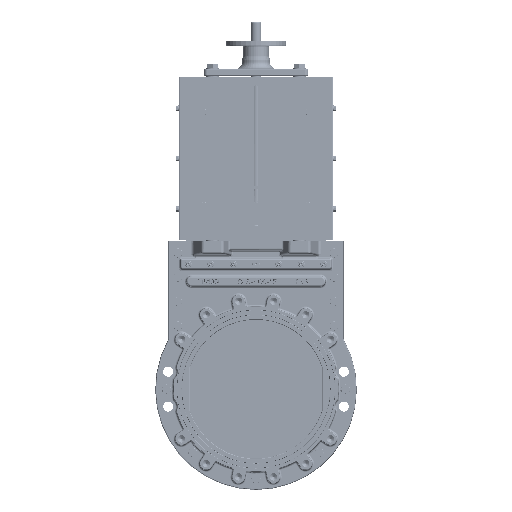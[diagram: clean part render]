
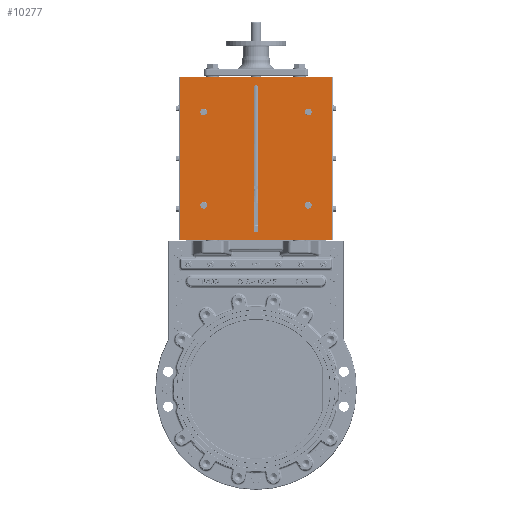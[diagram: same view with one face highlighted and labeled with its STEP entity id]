
A CAD part, top view. The second image highlights one B-rep face of the part: STEP entity #10277.
In plain terms, the highlighted planar face has unit normal (0, 0, 1).
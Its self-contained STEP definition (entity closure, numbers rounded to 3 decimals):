
#10277=ADVANCED_FACE('',(#16073,#16074,#16075,#16076,#16077,#16078),#12029,
 .F.);
#12029=PLANE('',#55588);
#14110=CIRCLE('',#55532,10.);
#14111=CIRCLE('',#55534,10.);
#14112=CIRCLE('',#55536,10.);
#14113=CIRCLE('',#55538,10.);
#14138=CIRCLE('',#55586,5.);
#14139=CIRCLE('',#55587,5.);
#16073=FACE_BOUND('',#20405,.T.);
#16074=FACE_BOUND('',#20406,.T.);
#16075=FACE_BOUND('',#20407,.T.);
#16076=FACE_BOUND('',#20408,.T.);
#16077=FACE_BOUND('',#20409,.T.);
#16078=FACE_BOUND('',#20410,.T.);
#20405=EDGE_LOOP('',(#32834));
#20406=EDGE_LOOP('',(#32835));
#20407=EDGE_LOOP('',(#32836,#32837,#32838,#32839));
#20408=EDGE_LOOP('',(#32840,#32841,#32842,#32843));
#20409=EDGE_LOOP('',(#32844));
#20410=EDGE_LOOP('',(#32845));
#32834=ORIENTED_EDGE('',*,*,#46378,.F.);
#32835=ORIENTED_EDGE('',*,*,#46377,.F.);
#32836=ORIENTED_EDGE('',*,*,#46421,.F.);
#32837=ORIENTED_EDGE('',*,*,#46418,.T.);
#32838=ORIENTED_EDGE('',*,*,#46422,.T.);
#32839=ORIENTED_EDGE('',*,*,#46413,.T.);
#32840=ORIENTED_EDGE('',*,*,#46423,.T.);
#32841=ORIENTED_EDGE('',*,*,#46424,.T.);
#32842=ORIENTED_EDGE('',*,*,#46425,.T.);
#32843=ORIENTED_EDGE('',*,*,#46426,.F.);
#32844=ORIENTED_EDGE('',*,*,#46376,.T.);
#32845=ORIENTED_EDGE('',*,*,#46375,.T.);
#39699=VERTEX_POINT('',#114501);
#39700=VERTEX_POINT('',#114504);
#39701=VERTEX_POINT('',#114507);
#39702=VERTEX_POINT('',#114510);
#39729=VERTEX_POINT('',#114591);
#39730=VERTEX_POINT('',#114593);
#39732=VERTEX_POINT('',#114598);
#39734=VERTEX_POINT('',#114602);
#39735=VERTEX_POINT('',#114611);
#39736=VERTEX_POINT('',#114612);
#39737=VERTEX_POINT('',#114614);
#39738=VERTEX_POINT('',#114616);
#46375=EDGE_CURVE('',#39699,#39699,#14110,.T.);
#46376=EDGE_CURVE('',#39700,#39700,#14111,.T.);
#46377=EDGE_CURVE('',#39701,#39701,#14112,.T.);
#46378=EDGE_CURVE('',#39702,#39702,#14113,.T.);
#46413=EDGE_CURVE('',#39730,#39729,#49350,.T.);
#46418=EDGE_CURVE('',#39732,#39734,#49352,.T.);
#46421=EDGE_CURVE('',#39732,#39729,#49355,.T.);
#46422=EDGE_CURVE('',#39734,#39730,#49356,.T.);
#46423=EDGE_CURVE('',#39735,#39736,#14138,.T.);
#46424=EDGE_CURVE('',#39736,#39737,#49357,.T.);
#46425=EDGE_CURVE('',#39737,#39738,#14139,.T.);
#46426=EDGE_CURVE('',#39735,#39738,#49358,.T.);
#49350=LINE('',#114592,#51315);
#49352=LINE('',#114603,#51317);
#49355=LINE('',#114608,#51320);
#49356=LINE('',#114609,#51321);
#49357=LINE('',#114613,#51322);
#49358=LINE('',#114617,#51323);
#51315=VECTOR('',#65665,1.);
#51317=VECTOR('',#65675,1.);
#51320=VECTOR('',#65682,1.);
#51321=VECTOR('',#65683,1.);
#51322=VECTOR('',#65686,1.);
#51323=VECTOR('',#65689,1.);
#55532=AXIS2_PLACEMENT_3D('',#114500,#65556,#65557);
#55534=AXIS2_PLACEMENT_3D('',#114503,#65560,#65561);
#55536=AXIS2_PLACEMENT_3D('',#114506,#65564,#65565);
#55538=AXIS2_PLACEMENT_3D('',#114509,#65568,#65569);
#55586=AXIS2_PLACEMENT_3D('',#114610,#65684,#65685);
#55587=AXIS2_PLACEMENT_3D('',#114615,#65687,#65688);
#55588=AXIS2_PLACEMENT_3D('',#114618,#65690,#65691);
#65556=DIRECTION('',(0.,0.,-1.));
#65557=DIRECTION('',(-1.,0.,0.));
#65560=DIRECTION('',(0.,0.,-1.));
#65561=DIRECTION('',(-1.,0.,0.));
#65564=DIRECTION('',(0.,0.,1.));
#65565=DIRECTION('',(1.,0.,0.));
#65568=DIRECTION('',(0.,0.,1.));
#65569=DIRECTION('',(1.,0.,0.));
#65665=DIRECTION('',(0.,1.,0.));
#65675=DIRECTION('',(0.,-1.,0.));
#65682=DIRECTION('',(1.,0.,0.));
#65683=DIRECTION('',(1.,0.,0.));
#65684=DIRECTION('',(0.,0.,-1.));
#65685=DIRECTION('',(-1.,0.,0.));
#65686=DIRECTION('',(0.,-1.,0.));
#65687=DIRECTION('',(0.,0.,-1.));
#65688=DIRECTION('',(-1.,0.,0.));
#65689=DIRECTION('',(0.,-1.,0.));
#65690=DIRECTION('',(0.,0.,-1.));
#65691=DIRECTION('',(-1.,0.,0.));
#114500=CARTESIAN_POINT('',(-149.,800.281,100.792));
#114501=CARTESIAN_POINT('',(-159.,800.281,100.792));
#114503=CARTESIAN_POINT('',(-149.,532.281,100.792));
#114504=CARTESIAN_POINT('',(-159.,532.281,100.792));
#114506=CARTESIAN_POINT('',(151.,532.281,100.792));
#114507=CARTESIAN_POINT('',(161.,532.281,100.792));
#114509=CARTESIAN_POINT('',(151.,800.281,100.792));
#114510=CARTESIAN_POINT('',(161.,800.281,100.792));
#114591=CARTESIAN_POINT('',(219.5,900.281,100.792));
#114592=CARTESIAN_POINT('',(219.5,900.281,100.792));
#114593=CARTESIAN_POINT('',(219.5,432.281,100.792));
#114598=CARTESIAN_POINT('',(-217.5,900.281,100.792));
#114602=CARTESIAN_POINT('',(-217.5,432.281,100.792));
#114603=CARTESIAN_POINT('',(-217.5,492.281,100.792));
#114608=CARTESIAN_POINT('',(-196.5,900.281,100.792));
#114609=CARTESIAN_POINT('',(-196.5,432.281,100.792));
#114610=CARTESIAN_POINT('',(1.,873.781,100.792));
#114611=CARTESIAN_POINT('',(-4.,873.781,100.792));
#114612=CARTESIAN_POINT('',(6.,873.781,100.792));
#114613=CARTESIAN_POINT('',(6.,900.281,100.792));
#114614=CARTESIAN_POINT('',(6.,458.781,100.792));
#114615=CARTESIAN_POINT('',(1.,458.781,100.792));
#114616=CARTESIAN_POINT('',(-4.,458.781,100.792));
#114617=CARTESIAN_POINT('',(-4.,900.281,100.792));
#114618=CARTESIAN_POINT('',(-196.5,900.281,100.792));
